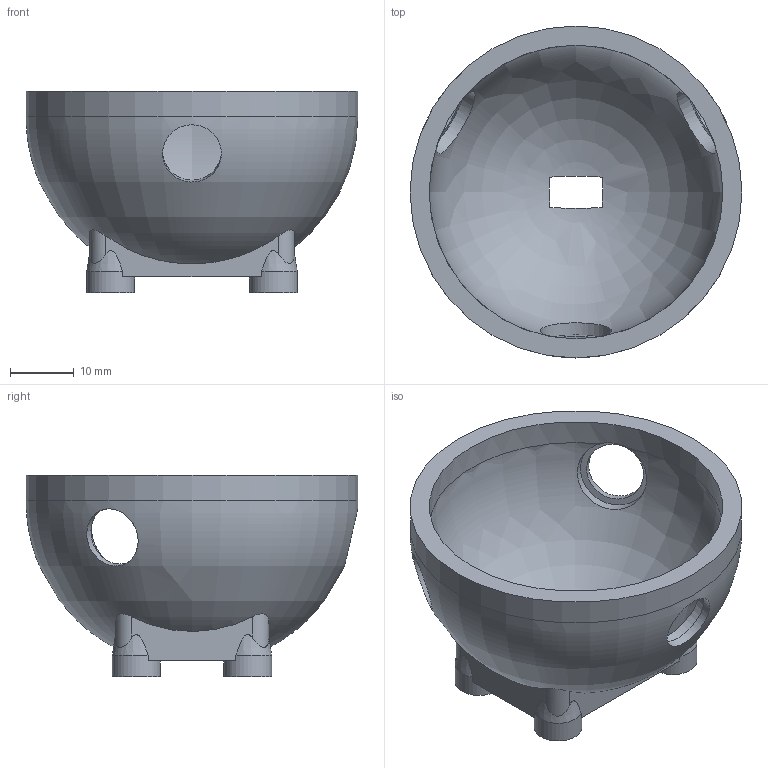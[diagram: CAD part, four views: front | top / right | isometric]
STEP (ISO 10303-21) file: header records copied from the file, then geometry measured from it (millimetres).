
FILE_DESCRIPTION(('Open CASCADE Model'),'2;1');
FILE_NAME('Open CASCADE Shape Model','2026-05-31T19:43:14',('Author'),( 'Open CASCADE'),'Open CASCADE STEP processor 7.6','Open CASCADE 7.6' ,'Unknown');
FILE_SCHEMA(('AP242_MANAGED_MODEL_BASED_3D_ENGINEERING_MIM_LF. {1 0 10303 442 1 1 4 }'));
Length unit declared in the file: millimetre
Products named in the file (1): Open CASCADE STEP translator 7.6 10
Bounding box: 52 x 52 x 31.6 mm (x, y, z)
Volume: 13835.9 mm3; surface area: 10114.2 mm2
Topology: 1 solids, 1 shells, 56 faces, 147 edges, 98 vertices
Faces by surface type: cylinder 24, plane 22, bspline 4, cone 4, revolution 2
Full cylindrical faces by diameter (mm): 3.5 x4, 7.5 x4, 9.2 x3, 11.2 x3, 46 x1, 52 x1
Entity records: 8104 total; most frequent: CARTESIAN_POINT 5277, DIRECTION 486, ORIENTED_EDGE 294, PCURVE 294, DEFINITIONAL_REPRESENTATION 294, LINE 236, VECTOR 236, EDGE_CURVE 147
